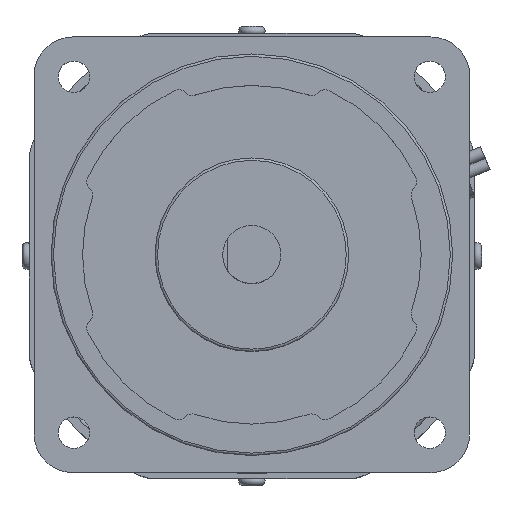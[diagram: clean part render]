
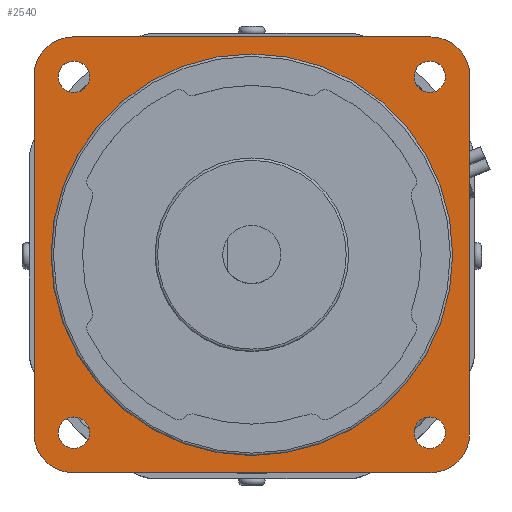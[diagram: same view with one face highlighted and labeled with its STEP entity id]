
A CAD part, top view. The second image highlights one B-rep face of the part: STEP entity #2540.
In plain terms, the highlighted planar face has unit normal (0, 0, 1).
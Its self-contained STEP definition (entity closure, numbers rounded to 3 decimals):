
#2142=CARTESIAN_POINT('',(45.0,-37.,200.0));
#2143=VERTEX_POINT('',#2142);
#2150=CARTESIAN_POINT('',(37.0,-45.0,200.0));
#2151=VERTEX_POINT('',#2150);
#2152=CARTESIAN_POINT('',(37.0,-37.0,200.0));
#2153=DIRECTION('',(0.0,0.0,-1.0));
#2154=DIRECTION('',(0.0,1.0,0.0));
#2155=AXIS2_PLACEMENT_3D('',#2152,#2153,#2154);
#2156=CIRCLE('',#2155,8.);
#2157=EDGE_CURVE('',#2143,#2151,#2156,.T.);
#2173=CARTESIAN_POINT('',(-37.,-45.0,200.0));
#2174=VERTEX_POINT('',#2173);
#2175=CARTESIAN_POINT('',(37.0,-45.0,200.0));
#2176=DIRECTION('',(-1.0,0.0,0.0));
#2177=VECTOR('',#2176,74.0);
#2178=LINE('',#2175,#2177);
#2179=EDGE_CURVE('',#2151,#2174,#2178,.T.);
#2220=CARTESIAN_POINT('',(-45.0,-37.0,200.0));
#2221=VERTEX_POINT('',#2220);
#2222=CARTESIAN_POINT('',(-37.0,-37.0,200.0));
#2223=DIRECTION('',(0.0,0.0,-1.0));
#2224=DIRECTION('',(1.0,0.0,0.0));
#2225=AXIS2_PLACEMENT_3D('',#2222,#2223,#2224);
#2226=CIRCLE('',#2225,8.);
#2227=EDGE_CURVE('',#2174,#2221,#2226,.T.);
#2243=CARTESIAN_POINT('',(-45.0,37.,200.0));
#2244=VERTEX_POINT('',#2243);
#2245=CARTESIAN_POINT('',(-45.0,-37.0,200.0));
#2246=DIRECTION('',(0.0,1.0,0.0));
#2247=VECTOR('',#2246,74.0);
#2248=LINE('',#2245,#2247);
#2249=EDGE_CURVE('',#2221,#2244,#2248,.T.);
#2275=CARTESIAN_POINT('',(-37.0,45.0,200.0));
#2276=VERTEX_POINT('',#2275);
#2277=CARTESIAN_POINT('',(-37.0,37.0,200.0));
#2278=DIRECTION('',(0.0,0.0,-1.0));
#2279=DIRECTION('',(0.0,-1.0,0.0));
#2280=AXIS2_PLACEMENT_3D('',#2277,#2278,#2279);
#2281=CIRCLE('',#2280,8.);
#2282=EDGE_CURVE('',#2244,#2276,#2281,.T.);
#2298=CARTESIAN_POINT('',(37.,45.0,200.0));
#2299=VERTEX_POINT('',#2298);
#2300=CARTESIAN_POINT('',(-37.0,45.0,200.0));
#2301=DIRECTION('',(1.0,0.0,0.0));
#2302=VECTOR('',#2301,74.0);
#2303=LINE('',#2300,#2302);
#2304=EDGE_CURVE('',#2276,#2299,#2303,.T.);
#2329=CARTESIAN_POINT('',(45.0,37.0,200.0));
#2330=VERTEX_POINT('',#2329);
#2331=CARTESIAN_POINT('',(37.0,37.0,200.0));
#2332=DIRECTION('',(0.0,0.0,-1.0));
#2333=DIRECTION('',(-1.0,0.0,0.0));
#2334=AXIS2_PLACEMENT_3D('',#2331,#2332,#2333);
#2335=CIRCLE('',#2334,8.);
#2336=EDGE_CURVE('',#2299,#2330,#2335,.T.);
#2352=CARTESIAN_POINT('',(45.0,37.0,200.0));
#2353=DIRECTION('',(0.0,-1.0,0.0));
#2354=VECTOR('',#2353,74.0);
#2355=LINE('',#2352,#2354);
#2356=EDGE_CURVE('',#2330,#2143,#2355,.T.);
#2380=CARTESIAN_POINT('',(40.02,36.77,200.0));
#2381=VERTEX_POINT('',#2380);
#2382=CARTESIAN_POINT('',(36.77,36.77,200.0));
#2383=DIRECTION('',(0.0,0.0,-1.0));
#2384=DIRECTION('',(-1.0,0.0,0.0));
#2385=AXIS2_PLACEMENT_3D('',#2382,#2383,#2384);
#2386=CIRCLE('',#2385,3.25);
#2387=EDGE_CURVE('',#2381,#2381,#2386,.T.);
#2400=CARTESIAN_POINT('',(40.02,-36.77,200.0));
#2401=VERTEX_POINT('',#2400);
#2402=CARTESIAN_POINT('',(36.77,-36.77,200.0));
#2403=DIRECTION('',(0.0,0.0,-1.0));
#2404=DIRECTION('',(-1.0,0.0,0.0));
#2405=AXIS2_PLACEMENT_3D('',#2402,#2403,#2404);
#2406=CIRCLE('',#2405,3.25);
#2407=EDGE_CURVE('',#2401,#2401,#2406,.T.);
#2420=CARTESIAN_POINT('',(-33.52,-36.77,200.0));
#2421=VERTEX_POINT('',#2420);
#2422=CARTESIAN_POINT('',(-36.77,-36.77,200.0));
#2423=DIRECTION('',(0.0,0.0,-1.0));
#2424=DIRECTION('',(-1.0,0.0,0.0));
#2425=AXIS2_PLACEMENT_3D('',#2422,#2423,#2424);
#2426=CIRCLE('',#2425,3.25);
#2427=EDGE_CURVE('',#2421,#2421,#2426,.T.);
#2440=CARTESIAN_POINT('',(-33.52,36.77,200.0));
#2441=VERTEX_POINT('',#2440);
#2442=CARTESIAN_POINT('',(-36.77,36.77,200.0));
#2443=DIRECTION('',(0.0,0.0,-1.0));
#2444=DIRECTION('',(-1.0,0.0,0.0));
#2445=AXIS2_PLACEMENT_3D('',#2442,#2443,#2444);
#2446=CIRCLE('',#2445,3.25);
#2447=EDGE_CURVE('',#2441,#2441,#2446,.T.);
#2487=CARTESIAN_POINT('',(41.5,0.,200.0));
#2488=VERTEX_POINT('',#2487);
#2489=CARTESIAN_POINT('',(0.,0.,200.0));
#2490=DIRECTION('',(0.0,0.0,-1.0));
#2491=DIRECTION('',(-1.0,0.0,0.0));
#2492=AXIS2_PLACEMENT_3D('',#2489,#2490,#2491);
#2493=CIRCLE('',#2492,41.5);
#2494=EDGE_CURVE('',#2488,#2488,#2493,.T.);
#2510=CARTESIAN_POINT('',(0.,0.,200.0));
#2511=DIRECTION('',(0.0,0.0,-1.0));
#2512=DIRECTION('',(-1.0,0.0,0.0));
#2513=AXIS2_PLACEMENT_3D('',#2510,#2511,#2512);
#2514=PLANE('',#2513);
#2515=ORIENTED_EDGE('',*,*,#2356,.F.);
#2516=ORIENTED_EDGE('',*,*,#2336,.F.);
#2517=ORIENTED_EDGE('',*,*,#2304,.F.);
#2518=ORIENTED_EDGE('',*,*,#2282,.F.);
#2519=ORIENTED_EDGE('',*,*,#2249,.F.);
#2520=ORIENTED_EDGE('',*,*,#2227,.F.);
#2521=ORIENTED_EDGE('',*,*,#2179,.F.);
#2522=ORIENTED_EDGE('',*,*,#2157,.F.);
#2523=EDGE_LOOP('',(#2515,#2516,#2517,#2518,#2519,#2520,#2521,#2522));
#2524=FACE_OUTER_BOUND('',#2523,.T.);
#2525=ORIENTED_EDGE('',*,*,#2494,.T.);
#2526=EDGE_LOOP('',(#2525));
#2527=FACE_BOUND('',#2526,.T.);
#2528=ORIENTED_EDGE('',*,*,#2447,.T.);
#2529=EDGE_LOOP('',(#2528));
#2530=FACE_BOUND('',#2529,.T.);
#2531=ORIENTED_EDGE('',*,*,#2427,.T.);
#2532=EDGE_LOOP('',(#2531));
#2533=FACE_BOUND('',#2532,.T.);
#2534=ORIENTED_EDGE('',*,*,#2407,.T.);
#2535=EDGE_LOOP('',(#2534));
#2536=FACE_BOUND('',#2535,.T.);
#2537=ORIENTED_EDGE('',*,*,#2387,.T.);
#2538=EDGE_LOOP('',(#2537));
#2539=FACE_BOUND('',#2538,.T.);
#2540=ADVANCED_FACE('',(#2524,#2527,#2530,#2533,#2536,#2539),#2514,.F.);
